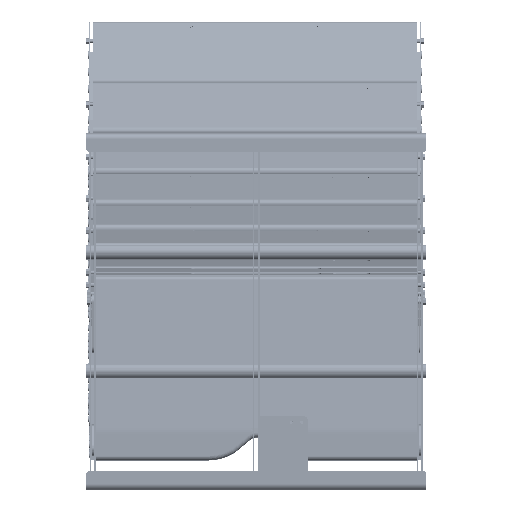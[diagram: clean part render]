
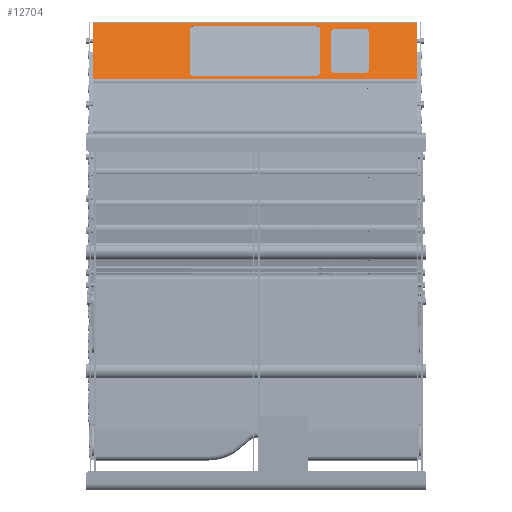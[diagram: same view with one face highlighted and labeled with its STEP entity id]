
A CAD part, top view. The second image highlights one B-rep face of the part: STEP entity #12704.
In plain terms, the highlighted planar face has unit normal (0, 0.695, 0.719) as drawn and (-1, 0, 0) by its records, which use the part's own axes.
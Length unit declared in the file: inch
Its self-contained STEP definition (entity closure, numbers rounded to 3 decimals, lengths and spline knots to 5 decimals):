
#948=CIRCLE('',#13808,0.375);
#949=CIRCLE('',#13809,0.375);
#950=CIRCLE('',#13810,0.375);
#951=CIRCLE('',#13811,0.375);
#952=CIRCLE('',#13812,0.33);
#953=CIRCLE('',#13813,0.33);
#954=CIRCLE('',#13814,0.33);
#955=CIRCLE('',#13815,0.33);
#1488=FACE_BOUND('',#2725,.T.);
#1489=FACE_BOUND('',#2726,.T.);
#1885=FACE_OUTER_BOUND('',#2724,.T.);
#2724=EDGE_LOOP('',(#10312,#10313,#10314,#10315));
#2725=EDGE_LOOP('',(#10316,#10317,#10318,#10319,#10320,#10321,#10322,#10323));
#2726=EDGE_LOOP('',(#10324,#10325,#10326,#10327,#10328,#10329,#10330,#10331));
#3954=LINE('',#20655,#5072);
#3957=LINE('',#20665,#5075);
#3958=LINE('',#20666,#5076);
#3959=LINE('',#20667,#5077);
#3960=LINE('',#20672,#5078);
#3961=LINE('',#20676,#5079);
#3962=LINE('',#20680,#5080);
#3963=LINE('',#20683,#5081);
#3964=LINE('',#20688,#5082);
#3965=LINE('',#20692,#5083);
#3966=LINE('',#20696,#5084);
#3967=LINE('',#20699,#5085);
#5072=VECTOR('',#16559,27.238);
#5075=VECTOR('',#16570,27.238);
#5076=VECTOR('',#16571,6.45343);
#5077=VECTOR('',#16572,6.45343);
#5078=VECTOR('',#16575,10.25);
#5079=VECTOR('',#16578,5.05);
#5080=VECTOR('',#16581,10.25);
#5081=VECTOR('',#16584,5.05);
#5082=VECTOR('',#16587,2.5);
#5083=VECTOR('',#16590,4.5);
#5084=VECTOR('',#16593,2.5);
#5085=VECTOR('',#16596,4.5);
#6164=VERTEX_POINT('',#20653);
#6165=VERTEX_POINT('',#20654);
#6167=VERTEX_POINT('',#20663);
#6168=VERTEX_POINT('',#20664);
#6169=VERTEX_POINT('',#20668);
#6170=VERTEX_POINT('',#20669);
#6171=VERTEX_POINT('',#20671);
#6172=VERTEX_POINT('',#20673);
#6173=VERTEX_POINT('',#20675);
#6174=VERTEX_POINT('',#20677);
#6175=VERTEX_POINT('',#20679);
#6176=VERTEX_POINT('',#20681);
#6177=VERTEX_POINT('',#20684);
#6178=VERTEX_POINT('',#20685);
#6179=VERTEX_POINT('',#20687);
#6180=VERTEX_POINT('',#20689);
#6181=VERTEX_POINT('',#20691);
#6182=VERTEX_POINT('',#20693);
#6183=VERTEX_POINT('',#20695);
#6184=VERTEX_POINT('',#20697);
#7643=EDGE_CURVE('',#6164,#6165,#3954,.T.);
#7648=EDGE_CURVE('',#6167,#6168,#3957,.T.);
#7649=EDGE_CURVE('',#6167,#6164,#3958,.T.);
#7650=EDGE_CURVE('',#6168,#6165,#3959,.T.);
#7651=EDGE_CURVE('',#6169,#6170,#948,.T.);
#7652=EDGE_CURVE('',#6171,#6169,#3960,.T.);
#7653=EDGE_CURVE('',#6172,#6171,#949,.T.);
#7654=EDGE_CURVE('',#6173,#6172,#3961,.T.);
#7655=EDGE_CURVE('',#6174,#6173,#950,.T.);
#7656=EDGE_CURVE('',#6175,#6174,#3962,.T.);
#7657=EDGE_CURVE('',#6176,#6175,#951,.T.);
#7658=EDGE_CURVE('',#6170,#6176,#3963,.T.);
#7659=EDGE_CURVE('',#6177,#6178,#952,.T.);
#7660=EDGE_CURVE('',#6179,#6177,#3964,.T.);
#7661=EDGE_CURVE('',#6180,#6179,#953,.T.);
#7662=EDGE_CURVE('',#6181,#6180,#3965,.T.);
#7663=EDGE_CURVE('',#6182,#6181,#954,.T.);
#7664=EDGE_CURVE('',#6183,#6182,#3966,.T.);
#7665=EDGE_CURVE('',#6184,#6183,#955,.T.);
#7666=EDGE_CURVE('',#6178,#6184,#3967,.T.);
#10312=ORIENTED_EDGE('',*,*,#7648,.F.);
#10313=ORIENTED_EDGE('',*,*,#7649,.T.);
#10314=ORIENTED_EDGE('',*,*,#7643,.T.);
#10315=ORIENTED_EDGE('',*,*,#7650,.F.);
#10316=ORIENTED_EDGE('',*,*,#7651,.F.);
#10317=ORIENTED_EDGE('',*,*,#7652,.F.);
#10318=ORIENTED_EDGE('',*,*,#7653,.F.);
#10319=ORIENTED_EDGE('',*,*,#7654,.F.);
#10320=ORIENTED_EDGE('',*,*,#7655,.F.);
#10321=ORIENTED_EDGE('',*,*,#7656,.F.);
#10322=ORIENTED_EDGE('',*,*,#7657,.F.);
#10323=ORIENTED_EDGE('',*,*,#7658,.F.);
#10324=ORIENTED_EDGE('',*,*,#7659,.F.);
#10325=ORIENTED_EDGE('',*,*,#7660,.F.);
#10326=ORIENTED_EDGE('',*,*,#7661,.F.);
#10327=ORIENTED_EDGE('',*,*,#7662,.F.);
#10328=ORIENTED_EDGE('',*,*,#7663,.F.);
#10329=ORIENTED_EDGE('',*,*,#7664,.F.);
#10330=ORIENTED_EDGE('',*,*,#7665,.F.);
#10331=ORIENTED_EDGE('',*,*,#7666,.F.);
#12239=PLANE('',#13807);
#12704=ADVANCED_FACE('',(#1885,#1488,#1489),#12239,.T.);
#13807=AXIS2_PLACEMENT_3D('',#20662,#16568,#16569);
#13808=AXIS2_PLACEMENT_3D('',#20670,#16573,#16574);
#13809=AXIS2_PLACEMENT_3D('',#20674,#16576,#16577);
#13810=AXIS2_PLACEMENT_3D('',#20678,#16579,#16580);
#13811=AXIS2_PLACEMENT_3D('',#20682,#16582,#16583);
#13812=AXIS2_PLACEMENT_3D('',#20686,#16585,#16586);
#13813=AXIS2_PLACEMENT_3D('',#20690,#16588,#16589);
#13814=AXIS2_PLACEMENT_3D('',#20694,#16591,#16592);
#13815=AXIS2_PLACEMENT_3D('',#20698,#16594,#16595);
#16559=DIRECTION('',(0.,0.,1.));
#16568=DIRECTION('center_axis',(-1.,0.,0.));
#16569=DIRECTION('ref_axis',(0.,0.,1.));
#16570=DIRECTION('',(0.,0.,1.));
#16571=DIRECTION('',(0.,-1.,0.));
#16572=DIRECTION('',(0.,-1.,0.));
#16573=DIRECTION('center_axis',(-1.,0.,0.));
#16574=DIRECTION('ref_axis',(0.,-1.,0.));
#16575=DIRECTION('',(0.,0.,-1.));
#16576=DIRECTION('center_axis',(-1.,0.,0.));
#16577=DIRECTION('ref_axis',(0.,-1.,0.));
#16578=DIRECTION('',(0.,1.,0.));
#16579=DIRECTION('center_axis',(-1.,0.,0.));
#16580=DIRECTION('ref_axis',(0.,-1.,0.));
#16581=DIRECTION('',(0.,0.,1.));
#16582=DIRECTION('center_axis',(-1.,0.,0.));
#16583=DIRECTION('ref_axis',(0.,-1.,0.));
#16584=DIRECTION('',(0.,-1.,0.));
#16585=DIRECTION('center_axis',(-1.,0.,0.));
#16586=DIRECTION('ref_axis',(0.,-1.,0.));
#16587=DIRECTION('',(0.,0.,-1.));
#16588=DIRECTION('center_axis',(-1.,0.,0.));
#16589=DIRECTION('ref_axis',(0.,-1.,0.));
#16590=DIRECTION('',(0.,1.,0.));
#16591=DIRECTION('center_axis',(-1.,0.,0.));
#16592=DIRECTION('ref_axis',(0.,-1.,0.));
#16593=DIRECTION('',(0.,0.,1.));
#16594=DIRECTION('center_axis',(-1.,0.,0.));
#16595=DIRECTION('ref_axis',(0.,-1.,0.));
#16596=DIRECTION('',(0.,-1.,0.));
#20653=CARTESIAN_POINT('',(-13.0906,-3.22672,-27.607));
#20654=CARTESIAN_POINT('',(-13.0906,-3.22672,-0.369));
#20655=CARTESIAN_POINT('',(-13.0906,-3.22672,-27.607));
#20662=CARTESIAN_POINT('Origin',(-13.0906,-3.22672,-27.976));
#20663=CARTESIAN_POINT('',(-13.0906,3.22672,-27.607));
#20664=CARTESIAN_POINT('',(-13.0906,3.22672,-0.369));
#20665=CARTESIAN_POINT('',(-13.0906,3.22672,-27.607));
#20666=CARTESIAN_POINT('',(-13.0906,3.22672,-27.607));
#20667=CARTESIAN_POINT('',(-13.0906,3.22672,-0.369));
#20668=CARTESIAN_POINT('',(-13.0906,2.9,-19.113));
#20669=CARTESIAN_POINT('',(-13.0906,2.525,-19.488));
#20670=CARTESIAN_POINT('Origin',(-13.0906,2.525,-19.113));
#20671=CARTESIAN_POINT('',(-13.0906,2.9,-8.863));
#20672=CARTESIAN_POINT('',(-13.0906,2.9,-8.863));
#20673=CARTESIAN_POINT('',(-13.0906,2.525,-8.488));
#20674=CARTESIAN_POINT('Origin',(-13.0906,2.525,-8.863));
#20675=CARTESIAN_POINT('',(-13.0906,-2.525,-8.488));
#20676=CARTESIAN_POINT('',(-13.0906,-2.525,-8.488));
#20677=CARTESIAN_POINT('',(-13.0906,-2.9,-8.863));
#20678=CARTESIAN_POINT('Origin',(-13.0906,-2.525,-8.863));
#20679=CARTESIAN_POINT('',(-13.0906,-2.9,-19.113));
#20680=CARTESIAN_POINT('',(-13.0906,-2.9,-19.113));
#20681=CARTESIAN_POINT('',(-13.0906,-2.525,-19.488));
#20682=CARTESIAN_POINT('Origin',(-13.0906,-2.525,-19.113));
#20683=CARTESIAN_POINT('',(-13.0906,2.525,-19.488));
#20684=CARTESIAN_POINT('',(-13.0906,2.58,-23.238));
#20685=CARTESIAN_POINT('',(-13.0906,2.25,-23.568));
#20686=CARTESIAN_POINT('Origin',(-13.0906,2.25,-23.238));
#20687=CARTESIAN_POINT('',(-13.0906,2.58,-20.738));
#20688=CARTESIAN_POINT('',(-13.0906,2.58,-20.738));
#20689=CARTESIAN_POINT('',(-13.0906,2.25,-20.408));
#20690=CARTESIAN_POINT('Origin',(-13.0906,2.25,-20.738));
#20691=CARTESIAN_POINT('',(-13.0906,-2.25,-20.408));
#20692=CARTESIAN_POINT('',(-13.0906,-2.25,-20.408));
#20693=CARTESIAN_POINT('',(-13.0906,-2.58,-20.738));
#20694=CARTESIAN_POINT('Origin',(-13.0906,-2.25,-20.738));
#20695=CARTESIAN_POINT('',(-13.0906,-2.58,-23.238));
#20696=CARTESIAN_POINT('',(-13.0906,-2.58,-23.238));
#20697=CARTESIAN_POINT('',(-13.0906,-2.25,-23.568));
#20698=CARTESIAN_POINT('Origin',(-13.0906,-2.25,-23.238));
#20699=CARTESIAN_POINT('',(-13.0906,2.25,-23.568));
